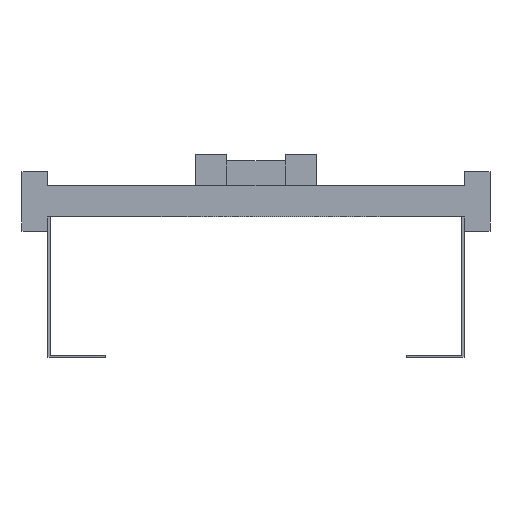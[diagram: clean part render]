
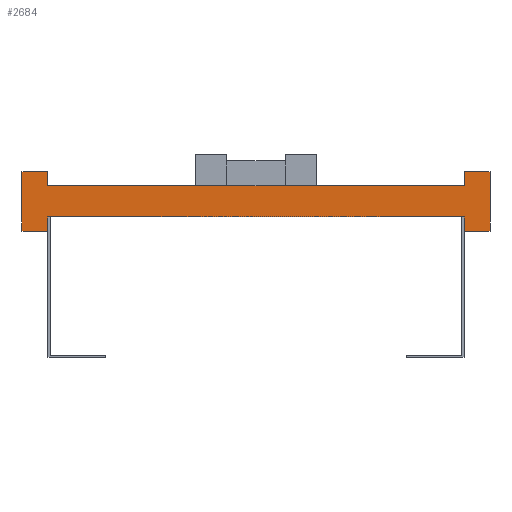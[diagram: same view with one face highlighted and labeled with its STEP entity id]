
A CAD part, front view. The second image highlights one B-rep face of the part: STEP entity #2684.
In plain terms, the highlighted planar face has unit normal (0, -1, 0).
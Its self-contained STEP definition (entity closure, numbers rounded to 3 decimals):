
#1=DIRECTION('',(0.,0.,1.));
#2=VECTOR('',#1,13.5);
#3=CARTESIAN_POINT('',(200.,0.,-28.5));
#4=LINE('',#3,#2);
#5=DIRECTION('',(0.,0.,-1.));
#6=VECTOR('',#5,13.5);
#7=CARTESIAN_POINT('',(-200.,0.,-15.));
#8=LINE('',#7,#6);
#9=DIRECTION('',(-1.,0.,0.));
#10=VECTOR('',#9,25.);
#11=CARTESIAN_POINT('',(-200.,0.,-28.5));
#12=LINE('',#11,#10);
#13=DIRECTION('',(0.,0.,1.));
#14=VECTOR('',#13,57.);
#15=CARTESIAN_POINT('',(-225.,0.,-28.5));
#16=LINE('',#15,#14);
#17=DIRECTION('',(1.,0.,0.));
#18=VECTOR('',#17,25.);
#19=CARTESIAN_POINT('',(-225.,0.,28.5));
#20=LINE('',#19,#18);
#21=DIRECTION('',(0.,0.,-1.));
#22=VECTOR('',#21,13.5);
#23=CARTESIAN_POINT('',(-200.,0.,28.5));
#24=LINE('',#23,#22);
#25=DIRECTION('',(0.,0.,1.));
#26=VECTOR('',#25,13.5);
#27=CARTESIAN_POINT('',(200.,0.,15.));
#28=LINE('',#27,#26);
#29=DIRECTION('',(1.,0.,0.));
#30=VECTOR('',#29,25.);
#31=CARTESIAN_POINT('',(200.,0.,28.5));
#32=LINE('',#31,#30);
#33=DIRECTION('',(0.,0.,-1.));
#34=VECTOR('',#33,57.);
#35=CARTESIAN_POINT('',(225.,0.,28.5));
#36=LINE('',#35,#34);
#37=DIRECTION('',(-1.,0.,0.));
#38=VECTOR('',#37,25.);
#39=CARTESIAN_POINT('',(225.,0.,-28.5));
#40=LINE('',#39,#38);
#2009=DIRECTION('',(1.,0.,0.));
#2010=VECTOR('',#2009,400.);
#2011=CARTESIAN_POINT('',(-200.,0.,-15.));
#2012=LINE('',#2011,#2010);
#2021=DIRECTION('',(1.,0.,0.));
#2022=VECTOR('',#2021,400.);
#2023=CARTESIAN_POINT('',(-200.,0.,15.));
#2024=LINE('',#2023,#2022);
#2025=CARTESIAN_POINT('',(-225.,0.,28.5));
#2026=CARTESIAN_POINT('',(-200.,0.,28.5));
#2027=VERTEX_POINT('',#2025);
#2028=VERTEX_POINT('',#2026);
#2029=CARTESIAN_POINT('',(-200.,0.,-28.5));
#2030=CARTESIAN_POINT('',(-225.,0.,-28.5));
#2031=VERTEX_POINT('',#2029);
#2032=VERTEX_POINT('',#2030);
#2033=CARTESIAN_POINT('',(225.,0.,28.5));
#2034=CARTESIAN_POINT('',(225.,0.,-28.5));
#2035=VERTEX_POINT('',#2033);
#2036=VERTEX_POINT('',#2034);
#2037=CARTESIAN_POINT('',(200.,0.,-28.5));
#2038=VERTEX_POINT('',#2037);
#2039=CARTESIAN_POINT('',(200.,0.,28.5));
#2040=VERTEX_POINT('',#2039);
#2057=CARTESIAN_POINT('',(-200.,0.,-15.));
#2059=VERTEX_POINT('',#2057);
#2061=CARTESIAN_POINT('',(-200.,0.,15.));
#2063=VERTEX_POINT('',#2061);
#2065=CARTESIAN_POINT('',(200.,0.,-15.));
#2067=VERTEX_POINT('',#2065);
#2069=CARTESIAN_POINT('',(200.,0.,15.));
#2071=VERTEX_POINT('',#2069);
#2653=CARTESIAN_POINT('',(0.,0.,0.));
#2654=DIRECTION('',(0.,1.,0.));
#2655=DIRECTION('',(1.,0.,0.));
#2656=AXIS2_PLACEMENT_3D('',#2653,#2654,#2655);
#2657=PLANE('',#2656);
#2659=ORIENTED_EDGE('',*,*,#2658,.T.);
#2661=ORIENTED_EDGE('',*,*,#2660,.F.);
#2663=ORIENTED_EDGE('',*,*,#2662,.T.);
#2665=ORIENTED_EDGE('',*,*,#2664,.T.);
#2667=ORIENTED_EDGE('',*,*,#2666,.T.);
#2669=ORIENTED_EDGE('',*,*,#2668,.T.);
#2671=ORIENTED_EDGE('',*,*,#2670,.T.);
#2673=ORIENTED_EDGE('',*,*,#2672,.T.);
#2675=ORIENTED_EDGE('',*,*,#2674,.T.);
#2677=ORIENTED_EDGE('',*,*,#2676,.T.);
#2679=ORIENTED_EDGE('',*,*,#2678,.T.);
#2681=ORIENTED_EDGE('',*,*,#2680,.T.);
#2682=EDGE_LOOP('',(#2659,#2661,#2663,#2665,#2667,#2669,#2671,#2673,#2675,#2677,
#2679,#2681));
#2683=FACE_OUTER_BOUND('',#2682,.F.);
#2684=ADVANCED_FACE('',(#2683),#2657,.F.);
#2658=EDGE_CURVE('',#2038,#2067,#4,.T.);
#2660=EDGE_CURVE('',#2059,#2067,#2012,.T.);
#2662=EDGE_CURVE('',#2059,#2031,#8,.T.);
#2664=EDGE_CURVE('',#2031,#2032,#12,.T.);
#2666=EDGE_CURVE('',#2032,#2027,#16,.T.);
#2668=EDGE_CURVE('',#2027,#2028,#20,.T.);
#2670=EDGE_CURVE('',#2028,#2063,#24,.T.);
#2672=EDGE_CURVE('',#2063,#2071,#2024,.T.);
#2674=EDGE_CURVE('',#2071,#2040,#28,.T.);
#2676=EDGE_CURVE('',#2040,#2035,#32,.T.);
#2678=EDGE_CURVE('',#2035,#2036,#36,.T.);
#2680=EDGE_CURVE('',#2036,#2038,#40,.T.);
